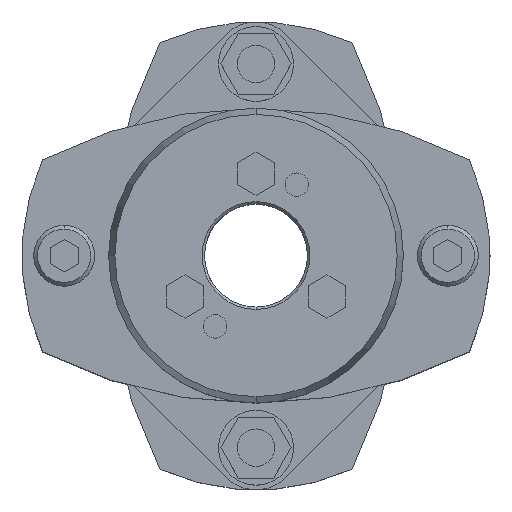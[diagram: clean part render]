
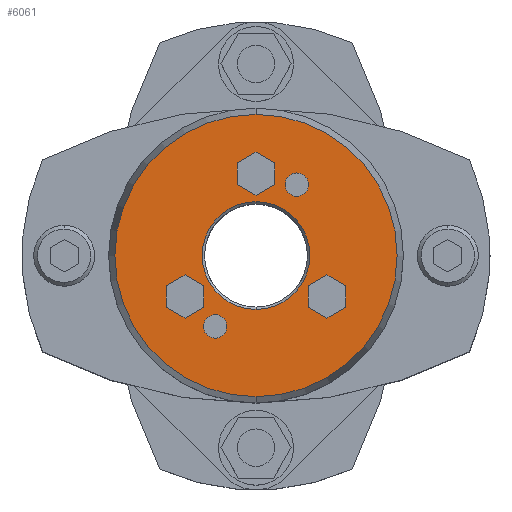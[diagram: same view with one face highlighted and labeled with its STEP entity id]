
A CAD part, top view. The second image highlights one B-rep face of the part: STEP entity #6061.
In plain terms, the highlighted planar face has unit normal (0, 0, 1).
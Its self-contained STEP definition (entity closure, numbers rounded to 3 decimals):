
#1677=CARTESIAN_POINT('',(0.,11.5,55.5));
#1678=VERTEX_POINT('',#1677);
#1694=CARTESIAN_POINT('',(0.,-11.5,55.5));
#1695=VERTEX_POINT('',#1694);
#1702=CARTESIAN_POINT('',(0.,0.,55.5));
#1703=DIRECTION('',(0.0,0.0,1.0));
#1704=DIRECTION('',(0.0,1.0,0.0));
#1705=AXIS2_PLACEMENT_3D('',#1702,#1703,#1704);
#1706=CIRCLE('',#1705,11.5);
#1707=EDGE_CURVE('',#1695,#1678,#1706,.T.);
#1865=CARTESIAN_POINT('',(0.,-30.16,55.5));
#1866=VERTEX_POINT('',#1865);
#1873=CARTESIAN_POINT('',(0.,30.16,55.5));
#1874=VERTEX_POINT('',#1873);
#1875=CARTESIAN_POINT('',(0.,0.,55.5));
#1876=DIRECTION('',(0.0,0.0,-1.0));
#1877=DIRECTION('',(0.0,-1.0,0.0));
#1878=AXIS2_PLACEMENT_3D('',#1875,#1876,#1877);
#1879=CIRCLE('',#1878,30.16);
#1880=EDGE_CURVE('',#1866,#1874,#1879,.T.);
#1975=CARTESIAN_POINT('',(8.75,17.655,55.5));
#1976=VERTEX_POINT('',#1975);
#1992=CARTESIAN_POINT('',(8.75,12.655,55.5));
#1993=VERTEX_POINT('',#1992);
#2000=CARTESIAN_POINT('',(8.75,15.155,55.5));
#2001=DIRECTION('',(0.0,0.0,-1.0));
#2002=DIRECTION('',(0.0,1.0,0.0));
#2003=AXIS2_PLACEMENT_3D('',#2000,#2001,#2002);
#2004=CIRCLE('',#2003,2.5);
#2005=EDGE_CURVE('',#1976,#1993,#2004,.T.);
#2017=CARTESIAN_POINT('',(-8.75,-12.655,55.5));
#2018=VERTEX_POINT('',#2017);
#2034=CARTESIAN_POINT('',(-8.75,-17.655,55.5));
#2035=VERTEX_POINT('',#2034);
#2042=CARTESIAN_POINT('',(-8.75,-15.155,55.5));
#2043=DIRECTION('',(0.0,0.0,-1.0));
#2044=DIRECTION('',(0.0,1.0,0.0));
#2045=AXIS2_PLACEMENT_3D('',#2042,#2043,#2044);
#2046=CIRCLE('',#2045,2.5);
#2047=EDGE_CURVE('',#2018,#2035,#2046,.T.);
#5088=CARTESIAN_POINT('',(-8.75,-15.155,55.5));
#5089=DIRECTION('',(0.0,0.0,-1.0));
#5090=DIRECTION('',(0.0,1.0,0.0));
#5091=AXIS2_PLACEMENT_3D('',#5088,#5089,#5090);
#5092=CIRCLE('',#5091,2.5);
#5093=EDGE_CURVE('',#2035,#2018,#5092,.T.);
#5122=CARTESIAN_POINT('',(8.75,15.155,55.5));
#5123=DIRECTION('',(0.0,0.0,-1.0));
#5124=DIRECTION('',(0.0,1.0,0.0));
#5125=AXIS2_PLACEMENT_3D('',#5122,#5123,#5124);
#5126=CIRCLE('',#5125,2.5);
#5127=EDGE_CURVE('',#1993,#1976,#5126,.T.);
#5165=CARTESIAN_POINT('',(-15.155,-4.131,55.5));
#5166=VERTEX_POINT('',#5165);
#5173=CARTESIAN_POINT('',(-19.155,-6.441,55.5));
#5174=VERTEX_POINT('',#5173);
#5175=CARTESIAN_POINT('',(-19.155,-6.441,55.5));
#5176=DIRECTION('',(0.866,0.5,0.0));
#5177=VECTOR('',#5176,4.619);
#5178=LINE('',#5175,#5177);
#5179=EDGE_CURVE('',#5174,#5166,#5178,.T.);
#5203=CARTESIAN_POINT('',(-11.155,-6.441,55.5));
#5204=VERTEX_POINT('',#5203);
#5211=CARTESIAN_POINT('',(-15.155,-4.131,55.5));
#5212=DIRECTION('',(0.866,-0.5,0.0));
#5213=VECTOR('',#5212,4.619);
#5214=LINE('',#5211,#5213);
#5215=EDGE_CURVE('',#5166,#5204,#5214,.T.);
#5234=CARTESIAN_POINT('',(-11.155,-11.059,55.5));
#5235=VERTEX_POINT('',#5234);
#5242=CARTESIAN_POINT('',(-11.155,-6.441,55.5));
#5243=DIRECTION('',(0.0,-1.0,0.0));
#5244=VECTOR('',#5243,4.619);
#5245=LINE('',#5242,#5244);
#5246=EDGE_CURVE('',#5204,#5235,#5245,.T.);
#5265=CARTESIAN_POINT('',(-15.155,-13.369,55.5));
#5266=VERTEX_POINT('',#5265);
#5273=CARTESIAN_POINT('',(-11.155,-11.059,55.5));
#5274=DIRECTION('',(-0.866,-0.5,0.0));
#5275=VECTOR('',#5274,4.619);
#5276=LINE('',#5273,#5275);
#5277=EDGE_CURVE('',#5235,#5266,#5276,.T.);
#5296=CARTESIAN_POINT('',(-19.155,-11.059,55.5));
#5297=VERTEX_POINT('',#5296);
#5304=CARTESIAN_POINT('',(-15.155,-13.369,55.5));
#5305=DIRECTION('',(-0.866,0.5,0.0));
#5306=VECTOR('',#5305,4.619);
#5307=LINE('',#5304,#5306);
#5308=EDGE_CURVE('',#5266,#5297,#5307,.T.);
#5326=CARTESIAN_POINT('',(-19.155,-11.059,55.5));
#5327=DIRECTION('',(0.0,1.0,0.0));
#5328=VECTOR('',#5327,4.619);
#5329=LINE('',#5326,#5328);
#5330=EDGE_CURVE('',#5297,#5174,#5329,.T.);
#5365=CARTESIAN_POINT('',(0.,22.119,55.5));
#5366=VERTEX_POINT('',#5365);
#5373=CARTESIAN_POINT('',(-4.,19.809,55.5));
#5374=VERTEX_POINT('',#5373);
#5375=CARTESIAN_POINT('',(-4.,19.809,55.5));
#5376=DIRECTION('',(0.866,0.5,0.0));
#5377=VECTOR('',#5376,4.619);
#5378=LINE('',#5375,#5377);
#5379=EDGE_CURVE('',#5374,#5366,#5378,.T.);
#5403=CARTESIAN_POINT('',(4.,19.809,55.5));
#5404=VERTEX_POINT('',#5403);
#5411=CARTESIAN_POINT('',(0.,22.119,55.5));
#5412=DIRECTION('',(0.866,-0.5,0.0));
#5413=VECTOR('',#5412,4.619);
#5414=LINE('',#5411,#5413);
#5415=EDGE_CURVE('',#5366,#5404,#5414,.T.);
#5434=CARTESIAN_POINT('',(4.,15.191,55.5));
#5435=VERTEX_POINT('',#5434);
#5442=CARTESIAN_POINT('',(4.,19.809,55.5));
#5443=DIRECTION('',(0.0,-1.0,0.0));
#5444=VECTOR('',#5443,4.619);
#5445=LINE('',#5442,#5444);
#5446=EDGE_CURVE('',#5404,#5435,#5445,.T.);
#5465=CARTESIAN_POINT('',(0.,12.881,55.5));
#5466=VERTEX_POINT('',#5465);
#5473=CARTESIAN_POINT('',(4.,15.191,55.5));
#5474=DIRECTION('',(-0.866,-0.5,0.0));
#5475=VECTOR('',#5474,4.619);
#5476=LINE('',#5473,#5475);
#5477=EDGE_CURVE('',#5435,#5466,#5476,.T.);
#5496=CARTESIAN_POINT('',(-4.,15.191,55.5));
#5497=VERTEX_POINT('',#5496);
#5504=CARTESIAN_POINT('',(0.,12.881,55.5));
#5505=DIRECTION('',(-0.866,0.5,0.0));
#5506=VECTOR('',#5505,4.619);
#5507=LINE('',#5504,#5506);
#5508=EDGE_CURVE('',#5466,#5497,#5507,.T.);
#5526=CARTESIAN_POINT('',(-4.,15.191,55.5));
#5527=DIRECTION('',(0.0,1.0,0.0));
#5528=VECTOR('',#5527,4.619);
#5529=LINE('',#5526,#5528);
#5530=EDGE_CURVE('',#5497,#5374,#5529,.T.);
#5565=CARTESIAN_POINT('',(15.155,-4.131,55.5));
#5566=VERTEX_POINT('',#5565);
#5573=CARTESIAN_POINT('',(11.155,-6.441,55.5));
#5574=VERTEX_POINT('',#5573);
#5575=CARTESIAN_POINT('',(11.155,-6.441,55.5));
#5576=DIRECTION('',(0.866,0.5,0.0));
#5577=VECTOR('',#5576,4.619);
#5578=LINE('',#5575,#5577);
#5579=EDGE_CURVE('',#5574,#5566,#5578,.T.);
#5603=CARTESIAN_POINT('',(19.155,-6.441,55.5));
#5604=VERTEX_POINT('',#5603);
#5611=CARTESIAN_POINT('',(15.155,-4.131,55.5));
#5612=DIRECTION('',(0.866,-0.5,0.0));
#5613=VECTOR('',#5612,4.619);
#5614=LINE('',#5611,#5613);
#5615=EDGE_CURVE('',#5566,#5604,#5614,.T.);
#5634=CARTESIAN_POINT('',(19.155,-11.059,55.5));
#5635=VERTEX_POINT('',#5634);
#5642=CARTESIAN_POINT('',(19.155,-6.441,55.5));
#5643=DIRECTION('',(0.0,-1.0,0.0));
#5644=VECTOR('',#5643,4.619);
#5645=LINE('',#5642,#5644);
#5646=EDGE_CURVE('',#5604,#5635,#5645,.T.);
#5665=CARTESIAN_POINT('',(15.155,-13.369,55.5));
#5666=VERTEX_POINT('',#5665);
#5673=CARTESIAN_POINT('',(19.155,-11.059,55.5));
#5674=DIRECTION('',(-0.866,-0.5,0.0));
#5675=VECTOR('',#5674,4.619);
#5676=LINE('',#5673,#5675);
#5677=EDGE_CURVE('',#5635,#5666,#5676,.T.);
#5696=CARTESIAN_POINT('',(11.155,-11.059,55.5));
#5697=VERTEX_POINT('',#5696);
#5704=CARTESIAN_POINT('',(15.155,-13.369,55.5));
#5705=DIRECTION('',(-0.866,0.5,0.0));
#5706=VECTOR('',#5705,4.619);
#5707=LINE('',#5704,#5706);
#5708=EDGE_CURVE('',#5666,#5697,#5707,.T.);
#5726=CARTESIAN_POINT('',(11.155,-11.059,55.5));
#5727=DIRECTION('',(0.0,1.0,0.0));
#5728=VECTOR('',#5727,4.619);
#5729=LINE('',#5726,#5728);
#5730=EDGE_CURVE('',#5697,#5574,#5729,.T.);
#6000=CARTESIAN_POINT('',(0.,0.,55.5));
#6001=DIRECTION('',(0.0,0.0,-1.0));
#6002=DIRECTION('',(0.0,-1.0,0.0));
#6003=AXIS2_PLACEMENT_3D('',#6000,#6001,#6002);
#6004=CIRCLE('',#6003,30.16);
#6005=EDGE_CURVE('',#1874,#1866,#6004,.T.);
#6010=CARTESIAN_POINT('',(0.,2.864,55.5));
#6011=DIRECTION('',(0.0,0.0,1.0));
#6012=DIRECTION('',(0.0,1.0,0.0));
#6013=AXIS2_PLACEMENT_3D('',#6010,#6011,#6012);
#6014=PLANE('',#6013);
#6015=ORIENTED_EDGE('',*,*,#6005,.F.);
#6016=ORIENTED_EDGE('',*,*,#1880,.F.);
#6017=EDGE_LOOP('',(#6015,#6016));
#6018=FACE_OUTER_BOUND('',#6017,.T.);
#6019=ORIENTED_EDGE('',*,*,#2047,.T.);
#6020=ORIENTED_EDGE('',*,*,#5093,.T.);
#6021=EDGE_LOOP('',(#6019,#6020));
#6022=FACE_BOUND('',#6021,.T.);
#6023=ORIENTED_EDGE('',*,*,#2005,.T.);
#6024=ORIENTED_EDGE('',*,*,#5127,.T.);
#6025=EDGE_LOOP('',(#6023,#6024));
#6026=FACE_BOUND('',#6025,.T.);
#6027=ORIENTED_EDGE('',*,*,#5179,.T.);
#6028=ORIENTED_EDGE('',*,*,#5215,.T.);
#6029=ORIENTED_EDGE('',*,*,#5246,.T.);
#6030=ORIENTED_EDGE('',*,*,#5277,.T.);
#6031=ORIENTED_EDGE('',*,*,#5308,.T.);
#6032=ORIENTED_EDGE('',*,*,#5330,.T.);
#6033=EDGE_LOOP('',(#6027,#6028,#6029,#6030,#6031,#6032));
#6034=FACE_BOUND('',#6033,.T.);
#6035=ORIENTED_EDGE('',*,*,#5379,.T.);
#6036=ORIENTED_EDGE('',*,*,#5415,.T.);
#6037=ORIENTED_EDGE('',*,*,#5446,.T.);
#6038=ORIENTED_EDGE('',*,*,#5477,.T.);
#6039=ORIENTED_EDGE('',*,*,#5508,.T.);
#6040=ORIENTED_EDGE('',*,*,#5530,.T.);
#6041=EDGE_LOOP('',(#6035,#6036,#6037,#6038,#6039,#6040));
#6042=FACE_BOUND('',#6041,.T.);
#6043=ORIENTED_EDGE('',*,*,#5579,.T.);
#6044=ORIENTED_EDGE('',*,*,#5615,.T.);
#6045=ORIENTED_EDGE('',*,*,#5646,.T.);
#6046=ORIENTED_EDGE('',*,*,#5677,.T.);
#6047=ORIENTED_EDGE('',*,*,#5708,.T.);
#6048=ORIENTED_EDGE('',*,*,#5730,.T.);
#6049=EDGE_LOOP('',(#6043,#6044,#6045,#6046,#6047,#6048));
#6050=FACE_BOUND('',#6049,.T.);
#6051=ORIENTED_EDGE('',*,*,#1707,.F.);
#6052=CARTESIAN_POINT('',(0.,0.,55.5));
#6053=DIRECTION('',(0.0,0.0,1.0));
#6054=DIRECTION('',(0.0,1.0,0.0));
#6055=AXIS2_PLACEMENT_3D('',#6052,#6053,#6054);
#6056=CIRCLE('',#6055,11.5);
#6057=EDGE_CURVE('',#1678,#1695,#6056,.T.);
#6058=ORIENTED_EDGE('',*,*,#6057,.F.);
#6059=EDGE_LOOP('',(#6051,#6058));
#6060=FACE_BOUND('',#6059,.T.);
#6061=ADVANCED_FACE('',(#6018,#6022,#6026,#6034,#6042,#6050,#6060),#6014,.T.);
